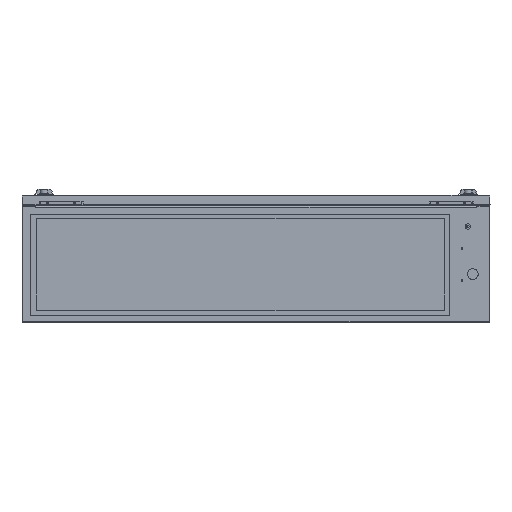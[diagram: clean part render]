
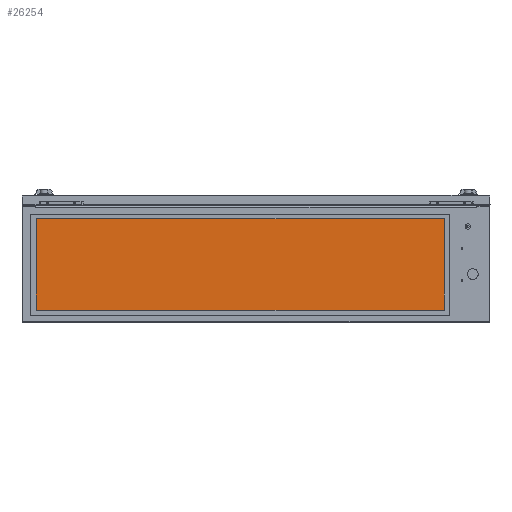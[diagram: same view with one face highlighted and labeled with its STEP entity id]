
A CAD part, left-side view. The second image highlights one B-rep face of the part: STEP entity #26254.
In plain terms, the highlighted planar face has unit normal (-1, 0, 0) as drawn and (0, 0, -1) by its records, which use the part's own axes.
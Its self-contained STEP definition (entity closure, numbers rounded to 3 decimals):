
#7084 = CARTESIAN_POINT ( 'NONE',  ( -5.185, -21.5, 0. ) ) ;
#7085 = DIRECTION ( 'NONE',  ( 0., -1., 0. ) ) ;
#7086 = VECTOR ( 'NONE', #7085, 39.37 ) ;
#7087 = CARTESIAN_POINT ( 'NONE',  ( -5.185, -21.5, 0. ) ) ;
#7088 = LINE ( 'NONE', #7087, #7086 ) ;
#7089 = CARTESIAN_POINT ( 'NONE',  ( -5.185, 21.5, 0. ) ) ;
#7192 = CARTESIAN_POINT ( 'NONE',  ( 5.185, 21.5, 0. ) ) ;
#7193 = DIRECTION ( 'NONE',  ( 0., 1., 0. ) ) ;
#7194 = VECTOR ( 'NONE', #7193, 39.37 ) ;
#7195 = CARTESIAN_POINT ( 'NONE',  ( 5.185, -21.5, 0. ) ) ;
#7196 = LINE ( 'NONE', #7195, #7194 ) ;
#7197 = DIRECTION ( 'NONE',  ( -1., 0., 0. ) ) ;
#7198 = DIRECTION ( 'NONE',  ( 0., 0., -1. ) ) ;
#7199 = CARTESIAN_POINT ( 'NONE',  ( -5.185, 21.5, 0. ) ) ;
#7200 = AXIS2_PLACEMENT_3D ( 'NONE', #7199, #7198, #7197 ) ;
#7201 = PLANE ( 'NONE',  #7200 ) ;
#7202 = FACE_OUTER_BOUND ( 'NONE', #26258, .T. ) ;
#7227 = CARTESIAN_POINT ( 'NONE',  ( 5.185, -21.5, 0. ) ) ;
#7228 = DIRECTION ( 'NONE',  ( 1., 0., 0. ) ) ;
#7229 = VECTOR ( 'NONE', #7228, 39.37 ) ;
#7230 = CARTESIAN_POINT ( 'NONE',  ( -5.185, -21.5, 0. ) ) ;
#7231 = LINE ( 'NONE', #7230, #7229 ) ;
#7238 = DIRECTION ( 'NONE',  ( -1., 0., 0. ) ) ;
#7239 = VECTOR ( 'NONE', #7238, 39.37 ) ;
#7240 = CARTESIAN_POINT ( 'NONE',  ( -5.185, 21.5, 0. ) ) ;
#7241 = LINE ( 'NONE', #7240, #7239 ) ;
#26180 = VERTEX_POINT ( 'NONE', #7089 ) ;
#26187 = EDGE_CURVE ( 'NONE', #26180, #26188, #7088, .T. ) ;
#26188 = VERTEX_POINT ( 'NONE', #7084 ) ;
#26254 = ADVANCED_FACE ( 'NONE', ( #7202 ), #7201, .T. ) ;
#26258 = EDGE_LOOP ( 'NONE', ( #26259, #26350, #26352, #26353 ) ) ;
#26259 = ORIENTED_EDGE ( 'NONE', *, *, #26187, .F. ) ;
#26261 = EDGE_CURVE ( 'NONE', #26288, #26263, #7196, .T. ) ;
#26263 = VERTEX_POINT ( 'NONE', #7192 ) ;
#26277 = EDGE_CURVE ( 'NONE', #26263, #26180, #7241, .T. ) ;
#26287 = EDGE_CURVE ( 'NONE', #26188, #26288, #7231, .T. ) ;
#26288 = VERTEX_POINT ( 'NONE', #7227 ) ;
#26350 = ORIENTED_EDGE ( 'NONE', *, *, #26277, .F. ) ;
#26352 = ORIENTED_EDGE ( 'NONE', *, *, #26261, .F. ) ;
#26353 = ORIENTED_EDGE ( 'NONE', *, *, #26287, .F. ) ;
